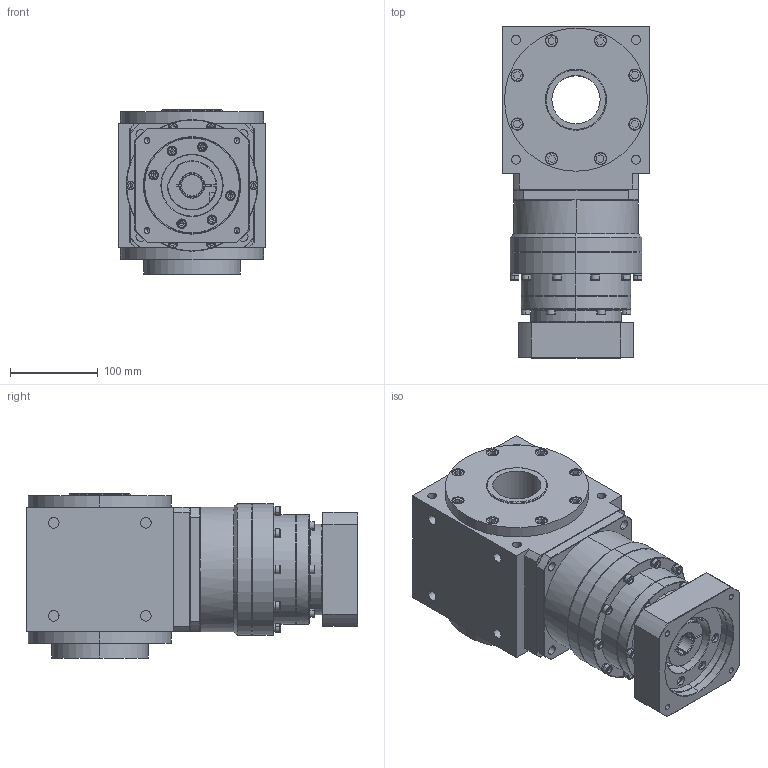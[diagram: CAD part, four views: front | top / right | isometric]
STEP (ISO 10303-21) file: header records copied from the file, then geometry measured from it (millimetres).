
FILE_DESCRIPTION (( 'STEP AP203' ), '1' );
FILE_NAME ('AAW165AS-L2-RF 24-110-145-M8.STEP', '2024-12-24T07:56:18', ( '' ), ( '' ), 'SwSTEP 2.0', 'SolidWorks 2021', '' );
FILE_SCHEMA (( 'CONFIG_CONTROL_DESIGN' ));
Length unit declared in the file: millimetre
Products named in the file (3): AAW165AS-RF; KS142L2-110-24-62-M8-145俋倛芞; AAW165AS-L2-RF 24-110-145-M8
Assembly tree (2 placements, depth 2):
  AAW165AS-L2-RF 24-110-145-M8
    AAW165AS-RF
    KS142L2-110-24-62-M8-145俋倛芞
Bounding box: 168 x 378 x 187 mm (x, y, z)
Volume: 7195479.8 mm3; surface area: 525214.3 mm2
Topology: 52 solids, 52 shells, 1534 faces, 3614 edges, 2245 vertices
Faces by surface type: plane 731, cylinder 530, cone 225, bspline 46, torus 2
Entity records: 45241 total; most frequent: CARTESIAN_POINT 9655, DIRECTION 7730, ORIENTED_EDGE 7032, EDGE_CURVE 3516, AXIS2_PLACEMENT_3D 2968, VERTEX_POINT 2245, LINE 1794, VECTOR 1794
